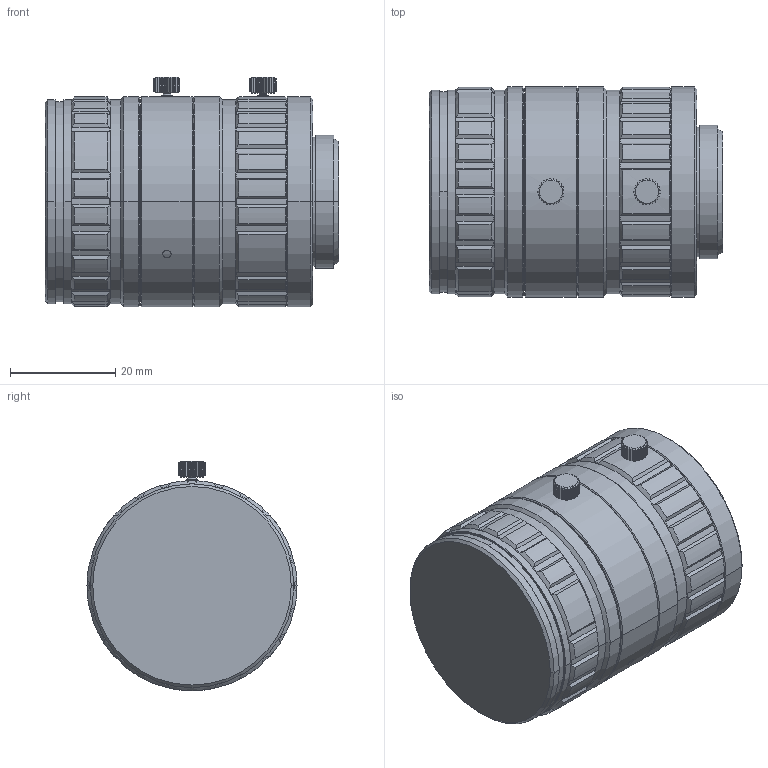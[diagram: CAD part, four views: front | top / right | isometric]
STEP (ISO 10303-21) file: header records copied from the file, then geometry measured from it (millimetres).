
FILE_DESCRIPTION((''),'2;1');
FILE_NAME('OPT-C3528-20MP_SW0001','2024-05-18T10:35:37',('admin'),(''),'CREO PARAMETRIC BY PTC INC, 2020354','CREO PARAMETRIC BY PTC INC, 2020354','');
FILE_SCHEMA(('AUTOMOTIVE_DESIGN { 1 0 10303 214 1 1 1 1 }'));
Length unit declared in the file: millimetre
Products named in the file (1): OPT-C3528-20MP_SW0001
Bounding box: 55.96 x 40 x 43.77 mm (x, y, z)
Volume: 65219.5 mm3; surface area: 11595.3 mm2
Topology: 1 solids, 1 shells, 648 faces, 1797 edges, 1167 vertices
Faces by surface type: cylinder 339, plane 227, cone 73, bspline 9
Entity records: 29862 total; most frequent: CARTESIAN_POINT 12276, ORIENTED_EDGE 3594, DIRECTION 2786, EDGE_CURVE 1797, VERTEX_POINT 1167, AXIS2_PLACEMENT_3D 1081, B_SPLINE_CURVE_WITH_KNOTS 731, EDGE_LOOP 668
